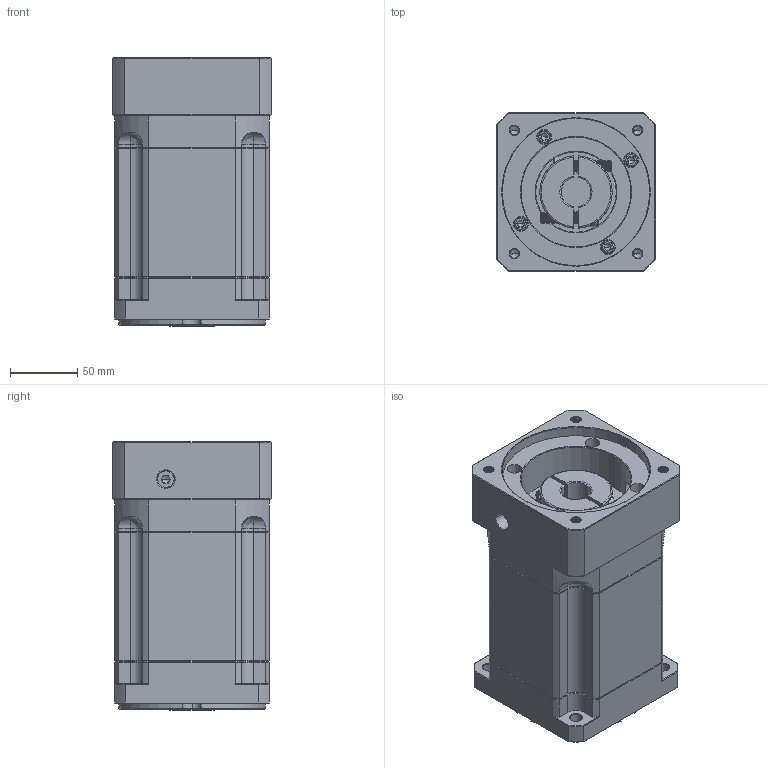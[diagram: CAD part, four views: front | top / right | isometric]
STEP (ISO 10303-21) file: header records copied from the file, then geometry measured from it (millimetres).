
FILE_DESCRIPTION (( 'STEP AP214' ), '1' );
FILE_NAME ('ZB115A-K25-L3-22-110-130-M8.step', '2023-03-02T09:05:54', ( '' ), ( 'Microsoft' ), 'SwSTEP 2.0', 'SolidWorks 2016', '' );
FILE_SCHEMA (( 'AUTOMOTIVE_DESIGN' ));
Length unit declared in the file: millimetre
Products named in the file (1): ZB115A-K25-L3-22-110-130-M8
Bounding box: 118 x 118 x 200.5 mm (x, y, z)
Volume: 2159966.2 mm3; surface area: 191578 mm2
Topology: 6 solids, 6 shells, 2063 faces, 5323 edges, 3355 vertices
Faces by surface type: plane 957, cylinder 408, cone 362, bspline 316, torus 20
Entity records: 107850 total; most frequent: CARTESIAN_POINT 37568, ORIENTED_EDGE 10582, DIRECTION 8737, EDGE_CURVE 5291, VERTEX_POINT 3355, VECTOR 3323, LINE 3323, AXIS2_PLACEMENT_3D 2707
